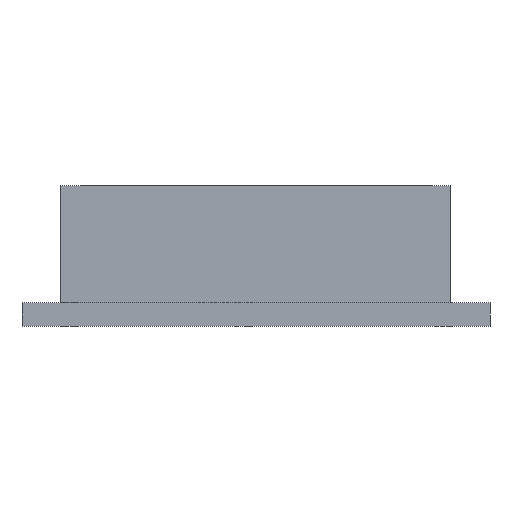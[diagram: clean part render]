
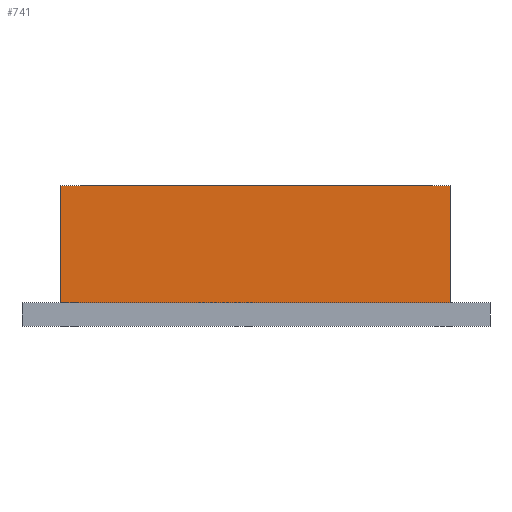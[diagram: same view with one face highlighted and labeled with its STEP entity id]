
A CAD part, front view. The second image highlights one B-rep face of the part: STEP entity #741.
In plain terms, the highlighted planar face has unit normal (0, -1, 0).
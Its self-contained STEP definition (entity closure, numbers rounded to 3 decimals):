
#126 = PLANE('',#127);
#127 = AXIS2_PLACEMENT_3D('',#128,#129,#130);
#128 = CARTESIAN_POINT('',(-60.,-30.,6.));
#129 = DIRECTION('',(0.,0.,1.));
#130 = DIRECTION('',(1.,0.,0.));
#301 = VERTEX_POINT('',#302);
#302 = CARTESIAN_POINT('',(-50.,-10.,6.));
#318 = PLANE('',#319);
#319 = AXIS2_PLACEMENT_3D('',#320,#321,#322);
#320 = CARTESIAN_POINT('',(-50.,-10.,6.));
#321 = DIRECTION('',(1.,0.,0.));
#322 = DIRECTION('',(0.,0.,1.));
#359 = VERTEX_POINT('',#360);
#360 = CARTESIAN_POINT('',(50.,-10.,6.));
#374 = PLANE('',#375);
#375 = AXIS2_PLACEMENT_3D('',#376,#377,#378);
#376 = CARTESIAN_POINT('',(50.,-10.,6.));
#377 = DIRECTION('',(1.,0.,0.));
#378 = DIRECTION('',(0.,0.,1.));
#386 = EDGE_CURVE('',#301,#359,#387,.T.);
#387 = SURFACE_CURVE('',#388,(#392,#399),.PCURVE_S1.);
#388 = LINE('',#389,#390);
#389 = CARTESIAN_POINT('',(-50.,-10.,6.));
#390 = VECTOR('',#391,1.);
#391 = DIRECTION('',(1.,0.,0.));
#392 = PCURVE('',#126,#393);
#393 = DEFINITIONAL_REPRESENTATION('',(#394),#398);
#394 = LINE('',#395,#396);
#395 = CARTESIAN_POINT('',(10.,20.));
#396 = VECTOR('',#397,1.);
#397 = DIRECTION('',(1.,0.));
#398 = ( GEOMETRIC_REPRESENTATION_CONTEXT(2) 
PARAMETRIC_REPRESENTATION_CONTEXT() REPRESENTATION_CONTEXT('2D SPACE',''
  ) );
#399 = PCURVE('',#400,#405);
#400 = PLANE('',#401);
#401 = AXIS2_PLACEMENT_3D('',#402,#403,#404);
#402 = CARTESIAN_POINT('',(-50.,-10.,6.));
#403 = DIRECTION('',(0.,1.,0.));
#404 = DIRECTION('',(0.,0.,1.));
#405 = DEFINITIONAL_REPRESENTATION('',(#406),#410);
#406 = LINE('',#407,#408);
#407 = CARTESIAN_POINT('',(0.,0.));
#408 = VECTOR('',#409,1.);
#409 = DIRECTION('',(0.,1.));
#410 = ( GEOMETRIC_REPRESENTATION_CONTEXT(2) 
PARAMETRIC_REPRESENTATION_CONTEXT() REPRESENTATION_CONTEXT('2D SPACE',''
  ) );
#620 = EDGE_CURVE('',#301,#621,#623,.T.);
#621 = VERTEX_POINT('',#622);
#622 = CARTESIAN_POINT('',(-50.,-10.,36.));
#623 = SURFACE_CURVE('',#624,(#628,#635),.PCURVE_S1.);
#624 = LINE('',#625,#626);
#625 = CARTESIAN_POINT('',(-50.,-10.,6.));
#626 = VECTOR('',#627,1.);
#627 = DIRECTION('',(0.,0.,1.));
#628 = PCURVE('',#318,#629);
#629 = DEFINITIONAL_REPRESENTATION('',(#630),#634);
#630 = LINE('',#631,#632);
#631 = CARTESIAN_POINT('',(0.,0.));
#632 = VECTOR('',#633,1.);
#633 = DIRECTION('',(1.,0.));
#634 = ( GEOMETRIC_REPRESENTATION_CONTEXT(2) 
PARAMETRIC_REPRESENTATION_CONTEXT() REPRESENTATION_CONTEXT('2D SPACE',''
  ) );
#635 = PCURVE('',#400,#636);
#636 = DEFINITIONAL_REPRESENTATION('',(#637),#641);
#637 = LINE('',#638,#639);
#638 = CARTESIAN_POINT('',(0.,0.));
#639 = VECTOR('',#640,1.);
#640 = DIRECTION('',(1.,0.));
#641 = ( GEOMETRIC_REPRESENTATION_CONTEXT(2) 
PARAMETRIC_REPRESENTATION_CONTEXT() REPRESENTATION_CONTEXT('2D SPACE',''
  ) );
#681 = PLANE('',#682);
#682 = AXIS2_PLACEMENT_3D('',#683,#684,#685);
#683 = CARTESIAN_POINT('',(-50.,-10.,36.));
#684 = DIRECTION('',(0.,0.,1.));
#685 = DIRECTION('',(1.,0.,0.));
#741 = ADVANCED_FACE('',(#742),#400,.F.);
#742 = FACE_BOUND('',#743,.F.);
#743 = EDGE_LOOP('',(#744,#745,#746,#769));
#744 = ORIENTED_EDGE('',*,*,#386,.F.);
#745 = ORIENTED_EDGE('',*,*,#620,.T.);
#746 = ORIENTED_EDGE('',*,*,#747,.T.);
#747 = EDGE_CURVE('',#621,#748,#750,.T.);
#748 = VERTEX_POINT('',#749);
#749 = CARTESIAN_POINT('',(50.,-10.,36.));
#750 = SURFACE_CURVE('',#751,(#755,#762),.PCURVE_S1.);
#751 = LINE('',#752,#753);
#752 = CARTESIAN_POINT('',(-50.,-10.,36.));
#753 = VECTOR('',#754,1.);
#754 = DIRECTION('',(1.,0.,0.));
#755 = PCURVE('',#400,#756);
#756 = DEFINITIONAL_REPRESENTATION('',(#757),#761);
#757 = LINE('',#758,#759);
#758 = CARTESIAN_POINT('',(30.,0.));
#759 = VECTOR('',#760,1.);
#760 = DIRECTION('',(0.,1.));
#761 = ( GEOMETRIC_REPRESENTATION_CONTEXT(2) 
PARAMETRIC_REPRESENTATION_CONTEXT() REPRESENTATION_CONTEXT('2D SPACE',''
  ) );
#762 = PCURVE('',#681,#763);
#763 = DEFINITIONAL_REPRESENTATION('',(#764),#768);
#764 = LINE('',#765,#766);
#765 = CARTESIAN_POINT('',(0.,0.));
#766 = VECTOR('',#767,1.);
#767 = DIRECTION('',(1.,0.));
#768 = ( GEOMETRIC_REPRESENTATION_CONTEXT(2) 
PARAMETRIC_REPRESENTATION_CONTEXT() REPRESENTATION_CONTEXT('2D SPACE',''
  ) );
#769 = ORIENTED_EDGE('',*,*,#770,.F.);
#770 = EDGE_CURVE('',#359,#748,#771,.T.);
#771 = SURFACE_CURVE('',#772,(#776,#783),.PCURVE_S1.);
#772 = LINE('',#773,#774);
#773 = CARTESIAN_POINT('',(50.,-10.,6.));
#774 = VECTOR('',#775,1.);
#775 = DIRECTION('',(0.,0.,1.));
#776 = PCURVE('',#400,#777);
#777 = DEFINITIONAL_REPRESENTATION('',(#778),#782);
#778 = LINE('',#779,#780);
#779 = CARTESIAN_POINT('',(0.,100.));
#780 = VECTOR('',#781,1.);
#781 = DIRECTION('',(1.,0.));
#782 = ( GEOMETRIC_REPRESENTATION_CONTEXT(2) 
PARAMETRIC_REPRESENTATION_CONTEXT() REPRESENTATION_CONTEXT('2D SPACE',''
  ) );
#783 = PCURVE('',#374,#784);
#784 = DEFINITIONAL_REPRESENTATION('',(#785),#789);
#785 = LINE('',#786,#787);
#786 = CARTESIAN_POINT('',(0.,0.));
#787 = VECTOR('',#788,1.);
#788 = DIRECTION('',(1.,0.));
#789 = ( GEOMETRIC_REPRESENTATION_CONTEXT(2) 
PARAMETRIC_REPRESENTATION_CONTEXT() REPRESENTATION_CONTEXT('2D SPACE',''
  ) );
